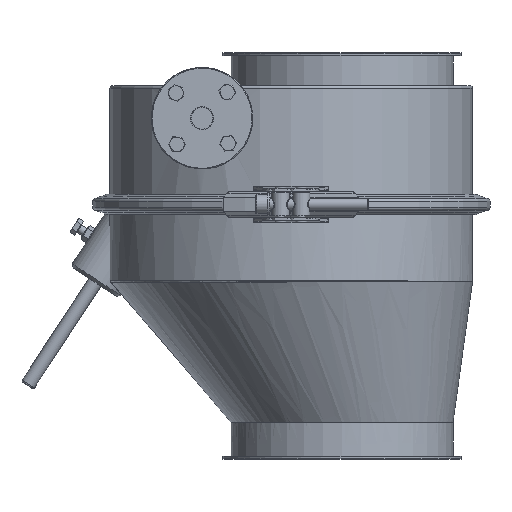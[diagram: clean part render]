
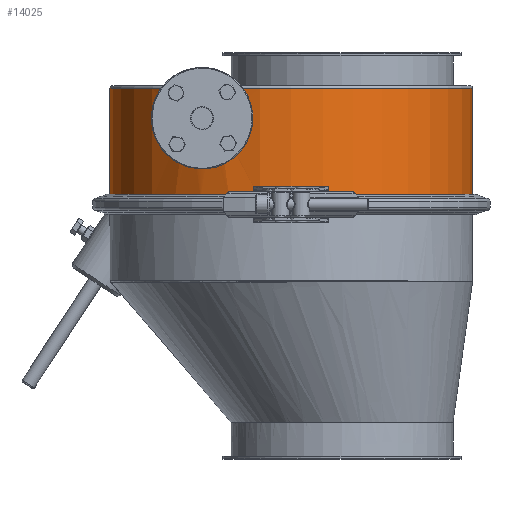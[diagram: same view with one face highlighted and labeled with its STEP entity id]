
A CAD part, left-side view. The second image highlights one B-rep face of the part: STEP entity #14025.
In plain terms, the highlighted cylindrical face has radius 125 mm (diameter 250 mm), a full revolution.
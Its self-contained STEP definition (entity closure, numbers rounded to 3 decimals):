
#13893=CARTESIAN_POINT('',(-125.0,35.,20.5));
#13894=VERTEX_POINT('',#13893);
#13895=CARTESIAN_POINT('',(0.0,35.0,20.5));
#13896=DIRECTION('',(0.0,0.0,1.0));
#13897=DIRECTION('',(1.0,0.0,0.0));
#13898=AXIS2_PLACEMENT_3D('',#13895,#13896,#13897);
#13899=CIRCLE('',#13898,125.0);
#13900=EDGE_CURVE('',#13894,#13894,#13899,.T.);
#13916=CARTESIAN_POINT('',(0.0,35.0,22.5));
#13917=DIRECTION('',(0.0,0.0,-1.0));
#13918=DIRECTION('',(1.0,0.0,0.0));
#13919=AXIS2_PLACEMENT_3D('',#13916,#13917,#13918);
#13920=CYLINDRICAL_SURFACE('',#13919,125.0);
#13921=CARTESIAN_POINT('',(-125.0,35.,-55.5));
#13922=VERTEX_POINT('',#13921);
#13923=CARTESIAN_POINT('',(0.0,35.0,-55.5));
#13924=DIRECTION('',(0.0,0.0,1.0));
#13925=DIRECTION('',(1.0,0.0,0.0));
#13926=AXIS2_PLACEMENT_3D('',#13923,#13924,#13925);
#13927=CIRCLE('',#13926,125.0);
#13928=EDGE_CURVE('',#13922,#13922,#13927,.T.);
#13929=ORIENTED_EDGE('',*,*,#13928,.T.);
#13930=EDGE_LOOP('',(#13929));
#13931=FACE_OUTER_BOUND('',#13930,.T.);
#13932=CARTESIAN_POINT('',(-114.996,84.0,0.0));
#13933=VERTEX_POINT('',#13932);
#13934=CARTESIAN_POINT('',(-114.996,84.0,0.0));
#13935=CARTESIAN_POINT('',(-114.996,84.0,-1.556));
#13936=CARTESIAN_POINT('',(-114.865,84.309,-3.206));
#13937=CARTESIAN_POINT('',(-114.331,85.535,-6.219));
#13938=CARTESIAN_POINT('',(-113.926,86.451,-7.581));
#13939=CARTESIAN_POINT('',(-112.91,88.647,-9.871));
#13940=CARTESIAN_POINT('',(-112.206,90.117,-10.883));
#13941=CARTESIAN_POINT('',(-110.6,93.272,-12.196));
#13942=CARTESIAN_POINT('',(-109.697,94.955,-12.5));
#13943=CARTESIAN_POINT('',(-107.905,98.127,-12.5));
#13944=CARTESIAN_POINT('',(-106.879,99.85,-12.166));
#13945=CARTESIAN_POINT('',(-104.887,103.024,-10.801));
#13946=CARTESIAN_POINT('',(-103.923,104.477,-9.772));
#13947=CARTESIAN_POINT('',(-102.466,106.603,-7.496));
#13948=CARTESIAN_POINT('',(-101.839,107.486,-6.173));
#13949=CARTESIAN_POINT('',(-101.191,108.386,-3.951));
#13950=CARTESIAN_POINT('',(-101.022,108.618,-3.171));
#13951=CARTESIAN_POINT('',(-100.798,108.925,-1.588));
#13952=CARTESIAN_POINT('',(-100.742,109.0,-0.785));
#13953=CARTESIAN_POINT('',(-100.742,109.0,0.785));
#13954=CARTESIAN_POINT('',(-100.798,108.925,1.588));
#13955=CARTESIAN_POINT('',(-101.022,108.618,3.171));
#13956=CARTESIAN_POINT('',(-101.191,108.386,3.951));
#13957=CARTESIAN_POINT('',(-101.839,107.486,6.173));
#13958=CARTESIAN_POINT('',(-102.466,106.603,7.496));
#13959=CARTESIAN_POINT('',(-103.923,104.477,9.772));
#13960=CARTESIAN_POINT('',(-104.887,103.024,10.801));
#13961=CARTESIAN_POINT('',(-106.879,99.85,12.166));
#13962=CARTESIAN_POINT('',(-107.905,98.127,12.5));
#13963=CARTESIAN_POINT('',(-109.697,94.955,12.5));
#13964=CARTESIAN_POINT('',(-110.6,93.272,12.196));
#13965=CARTESIAN_POINT('',(-112.206,90.117,10.883));
#13966=CARTESIAN_POINT('',(-112.91,88.647,9.871));
#13967=CARTESIAN_POINT('',(-113.926,86.451,7.581));
#13968=CARTESIAN_POINT('',(-114.331,85.535,6.219));
#13969=CARTESIAN_POINT('',(-114.865,84.309,3.206));
#13970=CARTESIAN_POINT('',(-114.996,84.0,1.556));
#13971=CARTESIAN_POINT('',(-114.996,84.0,0.));
#13972=B_SPLINE_CURVE_WITH_KNOTS('',3,(#13934,#13935,#13936,#13937,#13938,#13939,#13940,#13941,#13942,#13943,#13944,#13945,#13946,#13947,#13948,#13949,#13950,#13951,#13952,#13953,#13954,#13955,#13956,#13957,#13958,#13959,#13960,#13961,#13962,#13963,#13964,#13965,#13966,#13967,#13968,#13969,#13970,#13971),.UNSPECIFIED.,.T.,.U.,(4,2,2,2,2,2,2,2,2,2,2,2,2,2,2,2,2,2,4),(0.0,0.467,0.934,1.466,1.998,2.559,3.119,3.59,3.826,4.061,4.296,4.532,5.002,5.563,6.123,6.656,7.188,7.655,8.122),.UNSPECIFIED.);
#13973=EDGE_CURVE('',#13933,#13933,#13972,.T.);
#13974=ORIENTED_EDGE('',*,*,#13973,.T.);
#13975=EDGE_LOOP('',(#13974));
#13976=FACE_BOUND('',#13975,.T.);
#13977=CARTESIAN_POINT('',(114.996,84.0,0.));
#13978=VERTEX_POINT('',#13977);
#13979=CARTESIAN_POINT('',(114.996,84.0,0.));
#13980=CARTESIAN_POINT('',(114.996,84.0,1.556));
#13981=CARTESIAN_POINT('',(114.865,84.309,3.206));
#13982=CARTESIAN_POINT('',(114.331,85.535,6.219));
#13983=CARTESIAN_POINT('',(113.926,86.451,7.581));
#13984=CARTESIAN_POINT('',(112.91,88.647,9.871));
#13985=CARTESIAN_POINT('',(112.206,90.117,10.883));
#13986=CARTESIAN_POINT('',(110.6,93.272,12.196));
#13987=CARTESIAN_POINT('',(109.697,94.955,12.5));
#13988=CARTESIAN_POINT('',(107.905,98.127,12.5));
#13989=CARTESIAN_POINT('',(106.879,99.85,12.166));
#13990=CARTESIAN_POINT('',(104.887,103.024,10.801));
#13991=CARTESIAN_POINT('',(103.923,104.477,9.772));
#13992=CARTESIAN_POINT('',(102.466,106.603,7.496));
#13993=CARTESIAN_POINT('',(101.839,107.486,6.173));
#13994=CARTESIAN_POINT('',(101.191,108.386,3.951));
#13995=CARTESIAN_POINT('',(101.022,108.618,3.171));
#13996=CARTESIAN_POINT('',(100.798,108.925,1.588));
#13997=CARTESIAN_POINT('',(100.742,109.0,0.785));
#13998=CARTESIAN_POINT('',(100.742,109.0,-0.785));
#13999=CARTESIAN_POINT('',(100.798,108.925,-1.588));
#14000=CARTESIAN_POINT('',(101.022,108.618,-3.171));
#14001=CARTESIAN_POINT('',(101.191,108.386,-3.951));
#14002=CARTESIAN_POINT('',(101.839,107.486,-6.173));
#14003=CARTESIAN_POINT('',(102.466,106.603,-7.496));
#14004=CARTESIAN_POINT('',(103.923,104.477,-9.772));
#14005=CARTESIAN_POINT('',(104.887,103.024,-10.801));
#14006=CARTESIAN_POINT('',(106.879,99.85,-12.166));
#14007=CARTESIAN_POINT('',(107.905,98.127,-12.5));
#14008=CARTESIAN_POINT('',(109.697,94.955,-12.5));
#14009=CARTESIAN_POINT('',(110.6,93.272,-12.196));
#14010=CARTESIAN_POINT('',(112.206,90.117,-10.883));
#14011=CARTESIAN_POINT('',(112.91,88.647,-9.871));
#14012=CARTESIAN_POINT('',(113.926,86.451,-7.581));
#14013=CARTESIAN_POINT('',(114.331,85.535,-6.219));
#14014=CARTESIAN_POINT('',(114.865,84.309,-3.206));
#14015=CARTESIAN_POINT('',(114.996,84.0,-1.556));
#14016=CARTESIAN_POINT('',(114.996,84.0,0.));
#14017=B_SPLINE_CURVE_WITH_KNOTS('',3,(#13979,#13980,#13981,#13982,#13983,#13984,#13985,#13986,#13987,#13988,#13989,#13990,#13991,#13992,#13993,#13994,#13995,#13996,#13997,#13998,#13999,#14000,#14001,#14002,#14003,#14004,#14005,#14006,#14007,#14008,#14009,#14010,#14011,#14012,#14013,#14014,#14015,#14016),.UNSPECIFIED.,.T.,.U.,(4,2,2,2,2,2,2,2,2,2,2,2,2,2,2,2,2,2,4),(0.0,0.467,0.934,1.466,1.998,2.559,3.119,3.59,3.826,4.061,4.296,4.532,5.002,5.563,6.123,6.656,7.188,7.655,8.122),.UNSPECIFIED.);
#14018=EDGE_CURVE('',#13978,#13978,#14017,.T.);
#14019=ORIENTED_EDGE('',*,*,#14018,.T.);
#14020=EDGE_LOOP('',(#14019));
#14021=FACE_BOUND('',#14020,.T.);
#14022=ORIENTED_EDGE('',*,*,#13900,.F.);
#14023=EDGE_LOOP('',(#14022));
#14024=FACE_BOUND('',#14023,.T.);
#14025=ADVANCED_FACE('',(#13931,#13976,#14021,#14024),#13920,.T.);
